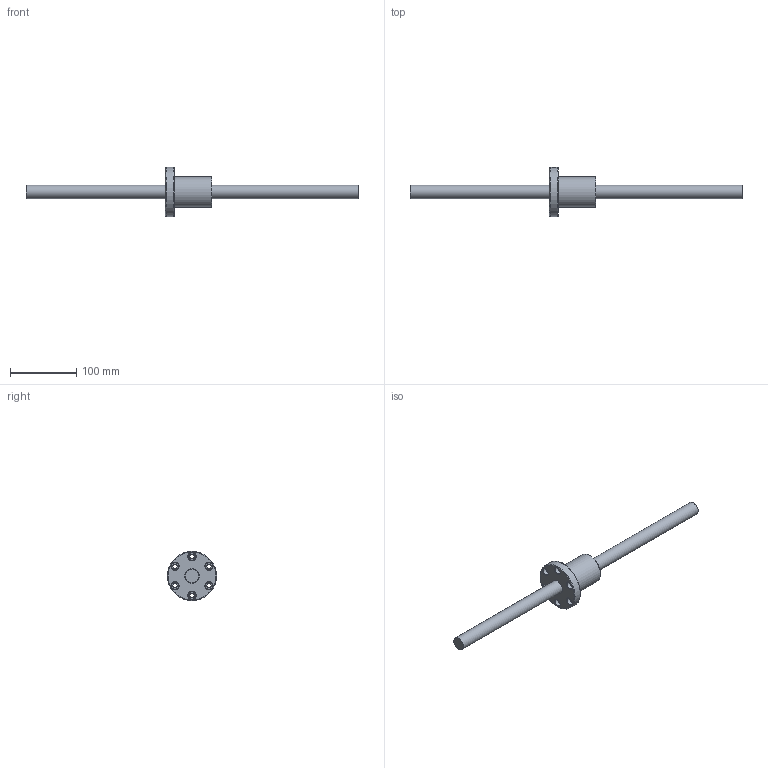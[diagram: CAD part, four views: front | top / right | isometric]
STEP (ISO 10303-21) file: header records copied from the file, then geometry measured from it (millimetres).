
FILE_DESCRIPTION (( 'STEP AP203' ), '1' );
FILE_NAME ('SFV02020N-1.8.step', '2024-05-20T03:38:00', ( '' ), ( '' ), 'SwSTEP 2.0', 'SolidWorks 2022', '' );
FILE_SCHEMA (( 'CONFIG_CONTROL_DESIGN' ));
Length unit declared in the file: millimetre
Products named in the file (1): SFV02020N-1.8
Bounding box: 500 x 74 x 74 mm (x, y, z)
Volume: 275039.1 mm3; surface area: 57713.7 mm2
Topology: 2 solids, 2 shells, 57 faces, 128 edges, 82 vertices
Faces by surface type: cylinder 24, cone 13, plane 12, bspline 5, torus 3
Full cylindrical faces by diameter (mm): 4 x1, 5 x6, 6.6 x6, 11 x6, 20 x1, 22.1 x1, 46 x1, 74 x1
Entity records: 2942 total; most frequent: CARTESIAN_POINT 1943, DIRECTION 196, ORIENTED_EDGE 126, EDGE_LOOP 108, AXIS2_PLACEMENT_3D 96, FACE_OUTER_BOUND 72, EDGE_CURVE 63, VERTEX_POINT 59
